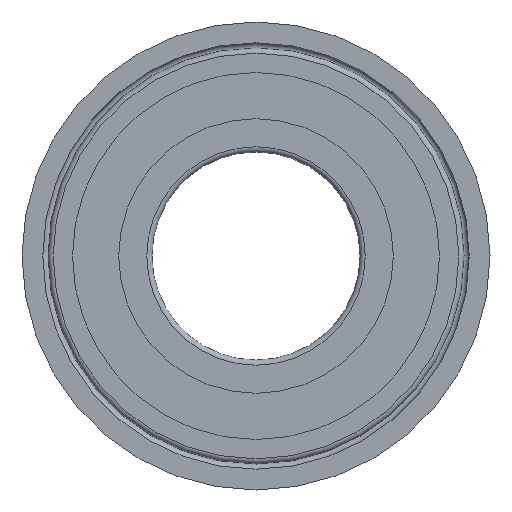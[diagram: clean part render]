
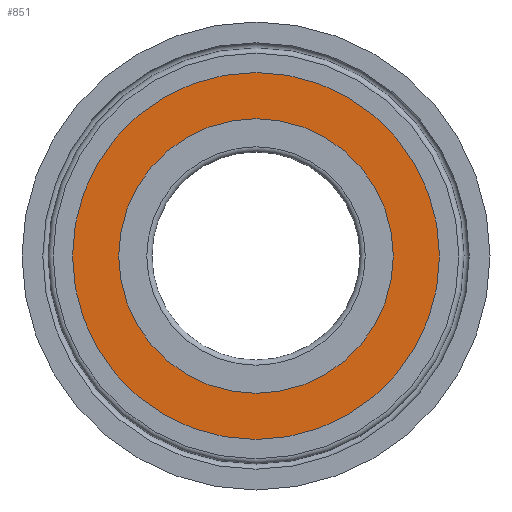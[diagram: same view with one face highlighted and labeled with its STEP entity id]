
A CAD part, left-side view. The second image highlights one B-rep face of the part: STEP entity #851.
In plain terms, the highlighted planar face has unit normal (-1, 0, 0).
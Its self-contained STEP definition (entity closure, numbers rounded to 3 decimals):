
#82 = CYLINDRICAL_SURFACE('',#83,5.28);
#83 = AXIS2_PLACEMENT_3D('',#84,#85,#86);
#84 = CARTESIAN_POINT('',(16.,0.,0.));
#85 = DIRECTION('',(-1.,-0.,0.));
#86 = DIRECTION('',(-0.,0.,-1.));
#779 = CYLINDRICAL_SURFACE('',#780,7.056);
#780 = AXIS2_PLACEMENT_3D('',#781,#782,#783);
#781 = CARTESIAN_POINT('',(16.,0.,0.));
#782 = DIRECTION('',(-1.,-0.,0.));
#783 = DIRECTION('',(-0.,0.,-1.));
#797 = EDGE_CURVE('',#798,#798,#800,.T.);
#798 = VERTEX_POINT('',#799);
#799 = CARTESIAN_POINT('',(0.16,0.,-7.056));
#800 = SURFACE_CURVE('',#801,(#806,#813),.PCURVE_S1.);
#801 = CIRCLE('',#802,7.056);
#802 = AXIS2_PLACEMENT_3D('',#803,#804,#805);
#803 = CARTESIAN_POINT('',(0.16,0.,0.));
#804 = DIRECTION('',(1.,0.,-0.));
#805 = DIRECTION('',(-0.,0.,-1.));
#806 = PCURVE('',#779,#807);
#807 = DEFINITIONAL_REPRESENTATION('',(#808),#812);
#808 = LINE('',#809,#810);
#809 = CARTESIAN_POINT('',(6.283,15.84));
#810 = VECTOR('',#811,1.);
#811 = DIRECTION('',(-1.,0.));
#812 = ( GEOMETRIC_REPRESENTATION_CONTEXT(2) 
PARAMETRIC_REPRESENTATION_CONTEXT() REPRESENTATION_CONTEXT('2D SPACE',''
  ) );
#813 = PCURVE('',#814,#819);
#814 = PLANE('',#815);
#815 = AXIS2_PLACEMENT_3D('',#816,#817,#818);
#816 = CARTESIAN_POINT('',(0.16,7.056,0.));
#817 = DIRECTION('',(-1.,0.,0.));
#818 = DIRECTION('',(0.,0.,1.));
#819 = DEFINITIONAL_REPRESENTATION('',(#820),#828);
#820 = ( BOUNDED_CURVE() B_SPLINE_CURVE(2,(#821,#822,#823,#824,#825,#826
,#827),.UNSPECIFIED.,.T.,.F.) B_SPLINE_CURVE_WITH_KNOTS((1,2,2,2,2,1),(
    -2.094,0.,2.094,4.189,6.283,
8.378),.UNSPECIFIED.) CURVE() GEOMETRIC_REPRESENTATION_ITEM() 
RATIONAL_B_SPLINE_CURVE((1.,0.5,1.,0.5,1.,0.5,1.)) REPRESENTATION_ITEM(
  '') );
#821 = CARTESIAN_POINT('',(-7.056,-7.056));
#822 = CARTESIAN_POINT('',(-7.056,5.165));
#823 = CARTESIAN_POINT('',(3.528,-0.945));
#824 = CARTESIAN_POINT('',(14.112,-7.056));
#825 = CARTESIAN_POINT('',(3.528,-13.167));
#826 = CARTESIAN_POINT('',(-7.056,-19.277));
#827 = CARTESIAN_POINT('',(-7.056,-7.056));
#828 = ( GEOMETRIC_REPRESENTATION_CONTEXT(2) 
PARAMETRIC_REPRESENTATION_CONTEXT() REPRESENTATION_CONTEXT('2D SPACE',''
  ) );
#851 = ADVANCED_FACE('',(#852,#882),#814,.T.);
#852 = FACE_BOUND('',#853,.T.);
#853 = EDGE_LOOP('',(#854));
#854 = ORIENTED_EDGE('',*,*,#855,.T.);
#855 = EDGE_CURVE('',#856,#856,#858,.T.);
#856 = VERTEX_POINT('',#857);
#857 = CARTESIAN_POINT('',(0.16,0.,-5.28));
#858 = SURFACE_CURVE('',#859,(#864,#875),.PCURVE_S1.);
#859 = CIRCLE('',#860,5.28);
#860 = AXIS2_PLACEMENT_3D('',#861,#862,#863);
#861 = CARTESIAN_POINT('',(0.16,0.,0.));
#862 = DIRECTION('',(1.,0.,-0.));
#863 = DIRECTION('',(-0.,0.,-1.));
#864 = PCURVE('',#814,#865);
#865 = DEFINITIONAL_REPRESENTATION('',(#866),#874);
#866 = ( BOUNDED_CURVE() B_SPLINE_CURVE(2,(#867,#868,#869,#870,#871,#872
,#873),.UNSPECIFIED.,.T.,.F.) B_SPLINE_CURVE_WITH_KNOTS((1,2,2,2,2,1),(
    -2.094,0.,2.094,4.189,6.283,
8.378),.UNSPECIFIED.) CURVE() GEOMETRIC_REPRESENTATION_ITEM() 
RATIONAL_B_SPLINE_CURVE((1.,0.5,1.,0.5,1.,0.5,1.)) REPRESENTATION_ITEM(
  '') );
#867 = CARTESIAN_POINT('',(-5.28,-7.056));
#868 = CARTESIAN_POINT('',(-5.28,2.089));
#869 = CARTESIAN_POINT('',(2.64,-2.483));
#870 = CARTESIAN_POINT('',(10.56,-7.056));
#871 = CARTESIAN_POINT('',(2.64,-11.629));
#872 = CARTESIAN_POINT('',(-5.28,-16.201));
#873 = CARTESIAN_POINT('',(-5.28,-7.056));
#874 = ( GEOMETRIC_REPRESENTATION_CONTEXT(2) 
PARAMETRIC_REPRESENTATION_CONTEXT() REPRESENTATION_CONTEXT('2D SPACE',''
  ) );
#875 = PCURVE('',#82,#876);
#876 = DEFINITIONAL_REPRESENTATION('',(#877),#881);
#877 = LINE('',#878,#879);
#878 = CARTESIAN_POINT('',(6.283,15.84));
#879 = VECTOR('',#880,1.);
#880 = DIRECTION('',(-1.,0.));
#881 = ( GEOMETRIC_REPRESENTATION_CONTEXT(2) 
PARAMETRIC_REPRESENTATION_CONTEXT() REPRESENTATION_CONTEXT('2D SPACE',''
  ) );
#882 = FACE_BOUND('',#883,.T.);
#883 = EDGE_LOOP('',(#884));
#884 = ORIENTED_EDGE('',*,*,#797,.F.);
